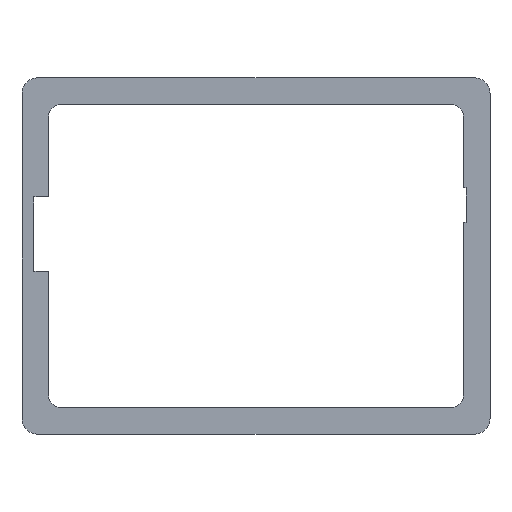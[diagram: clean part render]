
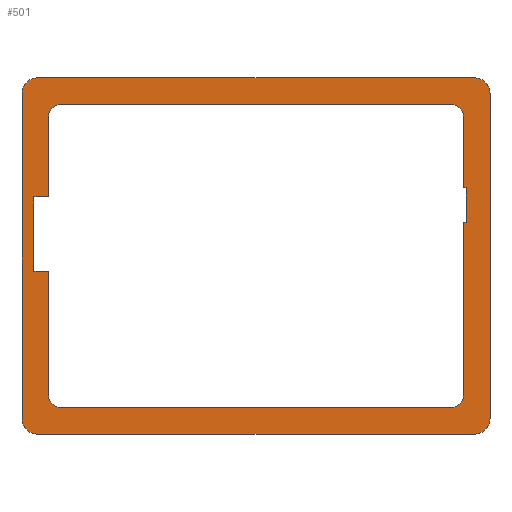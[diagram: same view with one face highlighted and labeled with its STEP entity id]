
A CAD part, top view. The second image highlights one B-rep face of the part: STEP entity #501.
In plain terms, the highlighted planar face has unit normal (0, 0, 1).
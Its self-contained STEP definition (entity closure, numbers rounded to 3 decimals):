
#24=FACE_BOUND('',#81,.T.);
#33=CIRCLE('',#548,0.55);
#34=CIRCLE('',#550,0.55);
#35=CIRCLE('',#552,0.55);
#36=CIRCLE('',#553,0.55);
#37=CIRCLE('',#554,0.45);
#38=CIRCLE('',#555,0.45);
#39=CIRCLE('',#556,0.45);
#40=CIRCLE('',#557,0.45);
#53=FACE_OUTER_BOUND('',#80,.T.);
#80=EDGE_LOOP('',(#395,#396,#397,#398,#399,#400,#401,#402));
#81=EDGE_LOOP('',(#403,#404,#405,#406,#407,#408,#409,#410,#411,#412,#413,
#414,#415,#416,#417,#418));
#97=LINE('',#721,#153);
#101=LINE('',#728,#157);
#104=LINE('',#734,#160);
#118=LINE('',#779,#174);
#121=LINE('',#785,#177);
#124=LINE('',#790,#180);
#126=LINE('',#794,#182);
#127=LINE('',#797,#183);
#130=LINE('',#803,#186);
#134=LINE('',#815,#190);
#135=LINE('',#819,#191);
#136=LINE('',#822,#192);
#137=LINE('',#824,#193);
#138=LINE('',#828,#194);
#139=LINE('',#831,#195);
#140=LINE('',#835,#196);
#153=VECTOR('',#577,10.);
#157=VECTOR('',#583,10.);
#160=VECTOR('',#588,10.);
#174=VECTOR('',#622,1.);
#177=VECTOR('',#627,10.);
#180=VECTOR('',#632,10.);
#182=VECTOR('',#636,10.);
#183=VECTOR('',#639,1.);
#186=VECTOR('',#644,1.);
#190=VECTOR('',#658,1.);
#191=VECTOR('',#661,1.);
#192=VECTOR('',#664,1.);
#193=VECTOR('',#665,1.);
#194=VECTOR('',#668,1.);
#195=VECTOR('',#671,1.);
#196=VECTOR('',#674,1.);
#209=VERTEX_POINT('',#718);
#210=VERTEX_POINT('',#720);
#212=VERTEX_POINT('',#726);
#214=VERTEX_POINT('',#732);
#235=VERTEX_POINT('',#778);
#236=VERTEX_POINT('',#782);
#237=VERTEX_POINT('',#784);
#238=VERTEX_POINT('',#788);
#239=VERTEX_POINT('',#792);
#240=VERTEX_POINT('',#796);
#241=VERTEX_POINT('',#800);
#242=VERTEX_POINT('',#802);
#243=VERTEX_POINT('',#806);
#244=VERTEX_POINT('',#810);
#245=VERTEX_POINT('',#814);
#246=VERTEX_POINT('',#816);
#247=VERTEX_POINT('',#818);
#248=VERTEX_POINT('',#820);
#249=VERTEX_POINT('',#823);
#250=VERTEX_POINT('',#825);
#251=VERTEX_POINT('',#827);
#252=VERTEX_POINT('',#830);
#253=VERTEX_POINT('',#832);
#254=VERTEX_POINT('',#834);
#257=EDGE_CURVE('',#210,#209,#97,.T.);
#261=EDGE_CURVE('',#209,#212,#101,.T.);
#264=EDGE_CURVE('',#212,#214,#104,.T.);
#286=EDGE_CURVE('',#235,#210,#118,.T.);
#289=EDGE_CURVE('',#237,#236,#121,.T.);
#292=EDGE_CURVE('',#236,#238,#124,.T.);
#294=EDGE_CURVE('',#238,#239,#126,.T.);
#295=EDGE_CURVE('',#237,#240,#127,.T.);
#298=EDGE_CURVE('',#241,#242,#130,.T.);
#301=EDGE_CURVE('',#241,#243,#33,.T.);
#303=EDGE_CURVE('',#244,#242,#34,.T.);
#304=EDGE_CURVE('',#243,#245,#134,.T.);
#305=EDGE_CURVE('',#245,#246,#35,.T.);
#306=EDGE_CURVE('',#246,#247,#135,.T.);
#307=EDGE_CURVE('',#247,#248,#36,.T.);
#308=EDGE_CURVE('',#244,#248,#136,.T.);
#309=EDGE_CURVE('',#214,#249,#137,.T.);
#310=EDGE_CURVE('',#249,#250,#37,.T.);
#311=EDGE_CURVE('',#250,#251,#138,.T.);
#312=EDGE_CURVE('',#251,#240,#38,.T.);
#313=EDGE_CURVE('',#252,#239,#139,.T.);
#314=EDGE_CURVE('',#252,#253,#39,.T.);
#315=EDGE_CURVE('',#254,#253,#140,.T.);
#316=EDGE_CURVE('',#254,#235,#40,.T.);
#395=ORIENTED_EDGE('',*,*,#298,.F.);
#396=ORIENTED_EDGE('',*,*,#301,.T.);
#397=ORIENTED_EDGE('',*,*,#304,.T.);
#398=ORIENTED_EDGE('',*,*,#305,.T.);
#399=ORIENTED_EDGE('',*,*,#306,.T.);
#400=ORIENTED_EDGE('',*,*,#307,.T.);
#401=ORIENTED_EDGE('',*,*,#308,.F.);
#402=ORIENTED_EDGE('',*,*,#303,.T.);
#403=ORIENTED_EDGE('',*,*,#264,.T.);
#404=ORIENTED_EDGE('',*,*,#309,.T.);
#405=ORIENTED_EDGE('',*,*,#310,.T.);
#406=ORIENTED_EDGE('',*,*,#311,.T.);
#407=ORIENTED_EDGE('',*,*,#312,.T.);
#408=ORIENTED_EDGE('',*,*,#295,.F.);
#409=ORIENTED_EDGE('',*,*,#289,.T.);
#410=ORIENTED_EDGE('',*,*,#292,.T.);
#411=ORIENTED_EDGE('',*,*,#294,.T.);
#412=ORIENTED_EDGE('',*,*,#313,.F.);
#413=ORIENTED_EDGE('',*,*,#314,.T.);
#414=ORIENTED_EDGE('',*,*,#315,.F.);
#415=ORIENTED_EDGE('',*,*,#316,.T.);
#416=ORIENTED_EDGE('',*,*,#286,.T.);
#417=ORIENTED_EDGE('',*,*,#257,.T.);
#418=ORIENTED_EDGE('',*,*,#261,.T.);
#481=PLANE('',#551);
#501=ADVANCED_FACE('',(#53,#24),#481,.T.);
#548=AXIS2_PLACEMENT_3D('',#808,#649,#650);
#550=AXIS2_PLACEMENT_3D('',#812,#654,#655);
#551=AXIS2_PLACEMENT_3D('',#813,#656,#657);
#552=AXIS2_PLACEMENT_3D('',#817,#659,#660);
#553=AXIS2_PLACEMENT_3D('',#821,#662,#663);
#554=AXIS2_PLACEMENT_3D('',#826,#666,#667);
#555=AXIS2_PLACEMENT_3D('',#829,#669,#670);
#556=AXIS2_PLACEMENT_3D('',#833,#672,#673);
#557=AXIS2_PLACEMENT_3D('',#836,#675,#676);
#577=DIRECTION('',(1.,0.,0.));
#583=DIRECTION('',(0.,-1.,0.));
#588=DIRECTION('',(-1.,0.,0.));
#622=DIRECTION('',(0.,-1.,0.));
#627=DIRECTION('',(-1.,0.,0.));
#632=DIRECTION('',(0.,1.,0.));
#636=DIRECTION('',(1.,0.,0.));
#639=DIRECTION('',(0.,-1.,0.));
#644=DIRECTION('',(0.,1.,0.));
#649=DIRECTION('center_axis',(0.,0.,1.));
#650=DIRECTION('ref_axis',(1.,0.,0.));
#654=DIRECTION('center_axis',(0.,0.,1.));
#655=DIRECTION('ref_axis',(1.,0.,0.));
#656=DIRECTION('center_axis',(0.,0.,1.));
#657=DIRECTION('ref_axis',(1.,0.,0.));
#658=DIRECTION('',(1.,0.,0.));
#659=DIRECTION('center_axis',(0.,0.,1.));
#660=DIRECTION('ref_axis',(1.,0.,0.));
#661=DIRECTION('',(0.,1.,0.));
#662=DIRECTION('center_axis',(0.,0.,1.));
#663=DIRECTION('ref_axis',(1.,0.,0.));
#664=DIRECTION('',(1.,0.,0.));
#665=DIRECTION('',(0.,-1.,0.));
#666=DIRECTION('center_axis',(0.,0.,-1.));
#667=DIRECTION('ref_axis',(1.,0.,0.));
#668=DIRECTION('',(-1.,0.,0.));
#669=DIRECTION('center_axis',(0.,0.,-1.));
#670=DIRECTION('ref_axis',(1.,0.,0.));
#671=DIRECTION('',(0.,-1.,0.));
#672=DIRECTION('center_axis',(0.,0.,-1.));
#673=DIRECTION('ref_axis',(1.,0.,0.));
#674=DIRECTION('',(-1.,0.,0.));
#675=DIRECTION('center_axis',(0.,0.,-1.));
#676=DIRECTION('ref_axis',(1.,0.,0.));
#718=CARTESIAN_POINT('',(7.35,-10.86,-4.85));
#720=CARTESIAN_POINT('',(7.25,-10.86,-4.85));
#721=CARTESIAN_POINT('',(3.175,-10.86,-4.85));
#726=CARTESIAN_POINT('',(7.35,-12.06,-4.85));
#728=CARTESIAN_POINT('',(7.35,-12.349,-4.85));
#732=CARTESIAN_POINT('',(7.25,-12.06,-4.85));
#734=CARTESIAN_POINT('',(3.175,-12.06,-4.85));
#778=CARTESIAN_POINT('',(7.25,-8.388,-4.85));
#779=CARTESIAN_POINT('',(7.25,-15.663,-4.85));
#782=CARTESIAN_POINT('',(-7.758,-13.776,-4.85));
#784=CARTESIAN_POINT('',(-7.25,-13.776,-4.85));
#785=CARTESIAN_POINT('',(-3.429,-13.776,-4.85));
#788=CARTESIAN_POINT('',(-7.758,-11.176,-4.85));
#790=CARTESIAN_POINT('',(-7.758,-12.857,-4.85));
#792=CARTESIAN_POINT('',(-7.25,-11.176,-4.85));
#794=CARTESIAN_POINT('',(-3.429,-11.176,-4.85));
#796=CARTESIAN_POINT('',(-7.25,-18.088,-4.85));
#797=CARTESIAN_POINT('',(-7.25,-15.663,-4.85));
#800=CARTESIAN_POINT('',(-8.175,-18.913,-4.85));
#802=CARTESIAN_POINT('',(-8.175,-7.563,-4.85));
#803=CARTESIAN_POINT('',(-8.175,-13.238,-4.85));
#806=CARTESIAN_POINT('',(-7.625,-19.463,-4.85));
#808=CARTESIAN_POINT('Origin',(-7.625,-18.913,-4.85));
#810=CARTESIAN_POINT('',(-7.625,-7.013,-4.85));
#812=CARTESIAN_POINT('Origin',(-7.625,-7.563,-4.85));
#813=CARTESIAN_POINT('Origin',(0.,-13.238,-4.85));
#814=CARTESIAN_POINT('',(7.625,-19.463,-4.85));
#815=CARTESIAN_POINT('',(0.,-19.463,-4.85));
#816=CARTESIAN_POINT('',(8.175,-18.913,-4.85));
#817=CARTESIAN_POINT('Origin',(7.625,-18.913,-4.85));
#818=CARTESIAN_POINT('',(8.175,-7.563,-4.85));
#819=CARTESIAN_POINT('',(8.175,-13.238,-4.85));
#820=CARTESIAN_POINT('',(7.625,-7.013,-4.85));
#821=CARTESIAN_POINT('Origin',(7.625,-7.563,-4.85));
#822=CARTESIAN_POINT('',(0.,-7.013,-4.85));
#823=CARTESIAN_POINT('',(7.25,-18.088,-4.85));
#824=CARTESIAN_POINT('',(7.25,-15.663,-4.85));
#825=CARTESIAN_POINT('',(6.8,-18.538,-4.85));
#826=CARTESIAN_POINT('Origin',(6.8,-18.088,-4.85));
#827=CARTESIAN_POINT('',(-6.8,-18.538,-4.85));
#828=CARTESIAN_POINT('',(-3.4,-18.538,-4.85));
#829=CARTESIAN_POINT('Origin',(-6.8,-18.088,-4.85));
#830=CARTESIAN_POINT('',(-7.25,-8.388,-4.85));
#831=CARTESIAN_POINT('',(-7.25,-15.663,-4.85));
#832=CARTESIAN_POINT('',(-6.8,-7.938,-4.85));
#833=CARTESIAN_POINT('Origin',(-6.8,-8.388,-4.85));
#834=CARTESIAN_POINT('',(6.8,-7.938,-4.85));
#835=CARTESIAN_POINT('',(-3.4,-7.938,-4.85));
#836=CARTESIAN_POINT('Origin',(6.8,-8.388,-4.85));
